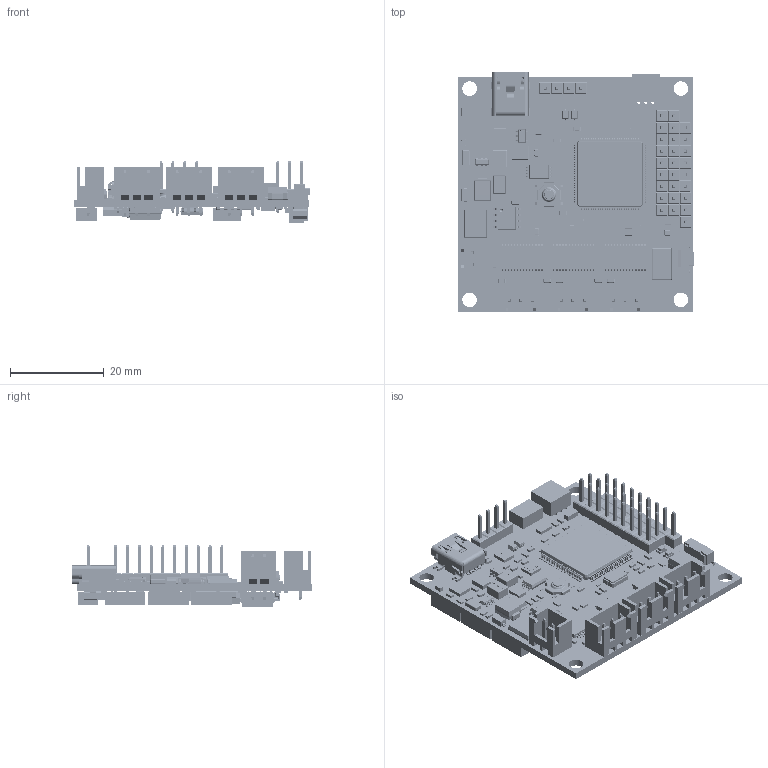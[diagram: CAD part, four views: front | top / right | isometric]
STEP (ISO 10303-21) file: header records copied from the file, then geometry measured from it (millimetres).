
FILE_DESCRIPTION(('Open CASCADE Model'),'2;1');
FILE_NAME('Open CASCADE Shape Model','2024-04-18T13:45:07',('Author'),( 'Open CASCADE'),'Open CASCADE STEP processor 6.8','Open CASCADE 6.8' ,'Unknown');
FILE_SCHEMA(('AUTOMOTIVE_DESIGN { 1 0 10303 214 1 1 1 1 }'));
Length unit declared in the file: millimetre
Products named in the file (209): PCB; Board; D6; SOD123; U13; User_Library-My-DFN-10-3x3-0_5; Part_13; Body; 14; 13; 2; 1; 11; 3; 12; 4; 10; 5; TP; U10; SOIC-8-1; R42; Resistors_0603; C44; TR8M156M010C; U16; ATSHA204A-RBHCZ-T_3-lead_Contact_v2; U17; CircuitWorks-SOT-23; U15; R41; R40; U6; 8-TDFN_2x3; D9; User_Library-SOD-523F; U14; User_Library-TSS0P8-1; U4; CP2102N_QFN2_v9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
Assembly tree (336 placements, depth 8):
  PCB
    Board
    D6
      SOD123
    U13
      User_Library-My-DFN-10-3x3-0_5
        Part_13
        Body
        14
        13
        2
        1
        11
        3
        12
        4
        10
        5
        TP
    U10
      SOIC-8-1
    R42
      Resistors_0603
    C44
      TR8M156M010C
    U16
      ATSHA204A-RBHCZ-T_3-lead_Contact_v2
    U17
      CircuitWorks-SOT-23
    U15
      SOIC-8-1
    R41
      Resistors_0603
    R40
      Resistors_0603
    U6
      8-TDFN_2x3
    D9
      User_Library-SOD-523F
    U14
      User_Library-TSS0P8-1
    U4
      CP2102N_QFN2_v9
    R3
      Resistors_0603
    C37
      CAPC1608X___
    P15
      User_Library-USB_mini_B
    XTAL1
      CRYTAL-SMD
    R39
      Resistors_0603
    R38
      CR1005-0402
    R37
      CR1005-0402
    R36
      CR1005-0402
    R35
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Bounding box: 50.33 x 50.95 x 13.15 mm (x, y, z)
Volume: 6858.4 mm3; surface area: 14724.6 mm2
Topology: 509 solids, 509 shells, 16211 faces, 40648 edges, 25336 vertices
Faces by surface type: plane 11409, cylinder 3511, bspline 855, torus 282, sphere 126, revolution 24, cone 4
Full cylindrical faces by diameter (mm): 0.15 x1, 0.3 x1, 0.5 x1, 0.7 x3, 0.9 x38, 1 x4, 3.1 x4
Entity records: 219441 total; most frequent: CARTESIAN_POINT 51434, ORIENTED_EDGE 31232, DIRECTION 28930, EDGE_CURVE 15616, LINE 12098, VECTOR 12098, VERTEX_POINT 9892, AXIS2_PLACEMENT_3D 8412
